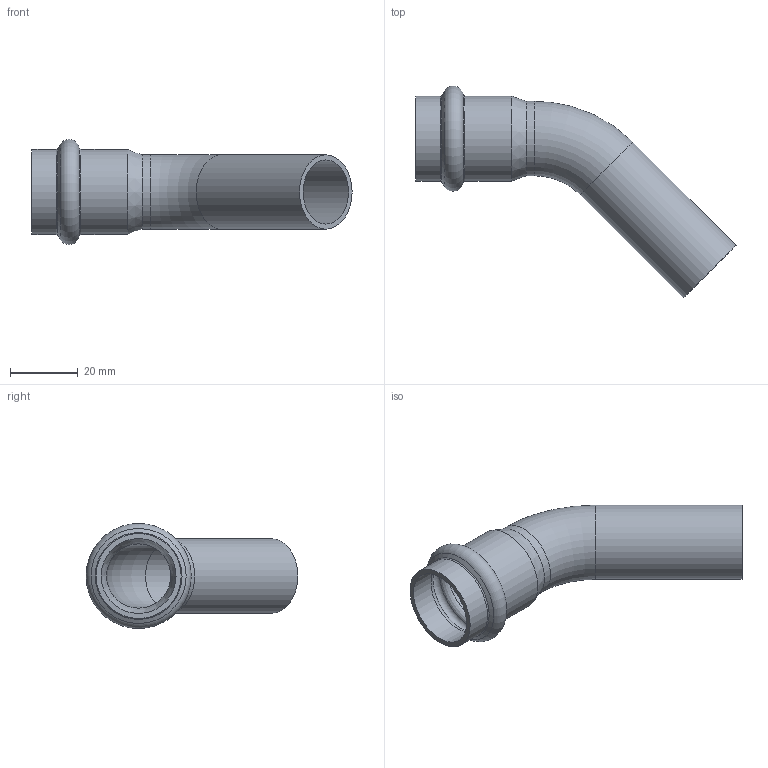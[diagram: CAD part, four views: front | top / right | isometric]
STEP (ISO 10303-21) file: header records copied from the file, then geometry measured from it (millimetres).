
FILE_DESCRIPTION((''),'2;1');
FILE_NAME('G:\Nirosan-Schmiedefeld\Technics\CAD\Bauteile VA\022\6904022(1).stp','2011-09-14T15:01:54',('herberg'),(''),'Autodesk Inventor 2009','Autodesk Inventor 2009','');
FILE_SCHEMA(('AUTOMOTIVE_DESIGN { 1 0 10303 214 1 1 1 1 }'));
Length unit declared in the file: millimetre
Products named in the file (1): 6904022(1)
Bounding box: 94.65 x 62.63 x 31.08 mm (x, y, z)
Volume: 10789.5 mm3; surface area: 14593.7 mm2
Topology: 1 solids, 1 shells, 22 faces, 48 edges, 28 vertices
Faces by surface type: cylinder 8, torus 4, cone 4, bspline 4, plane 2
Full cylindrical faces by diameter (mm): 19 x2, 22 x2, 22.15 x2, 25.15 x2
Entity records: 634 total; most frequent: CARTESIAN_POINT 243, DIRECTION 82, ORIENTED_EDGE 44, EDGE_LOOP 44, AXIS2_PLACEMENT_3D 41, VERTEX_POINT 22, CIRCLE 22, EDGE_CURVE 22
